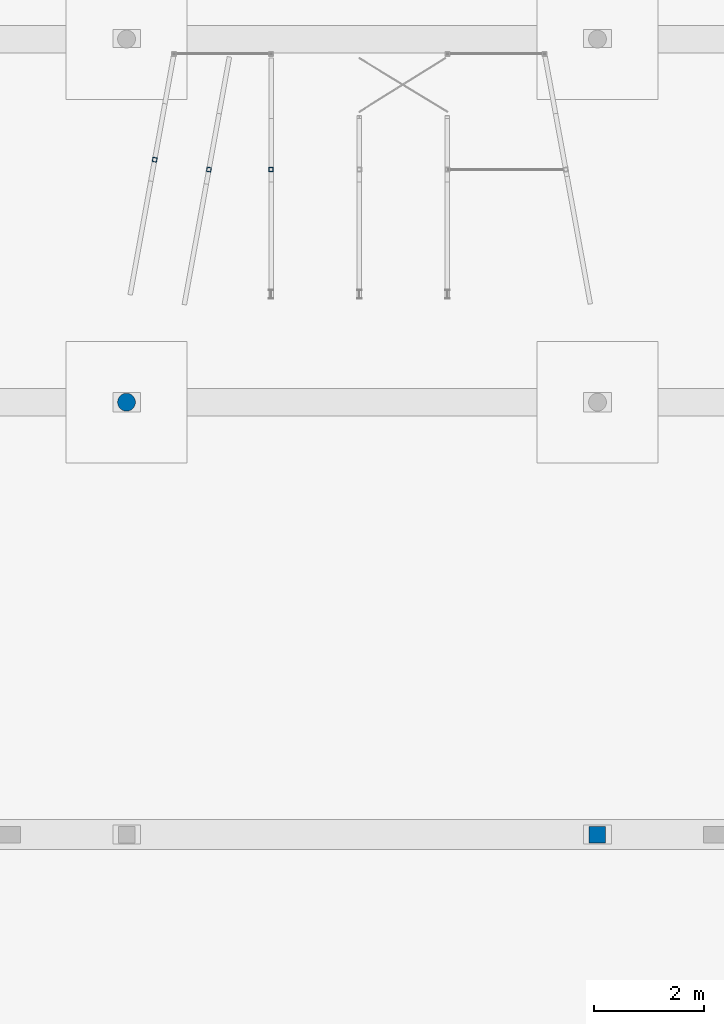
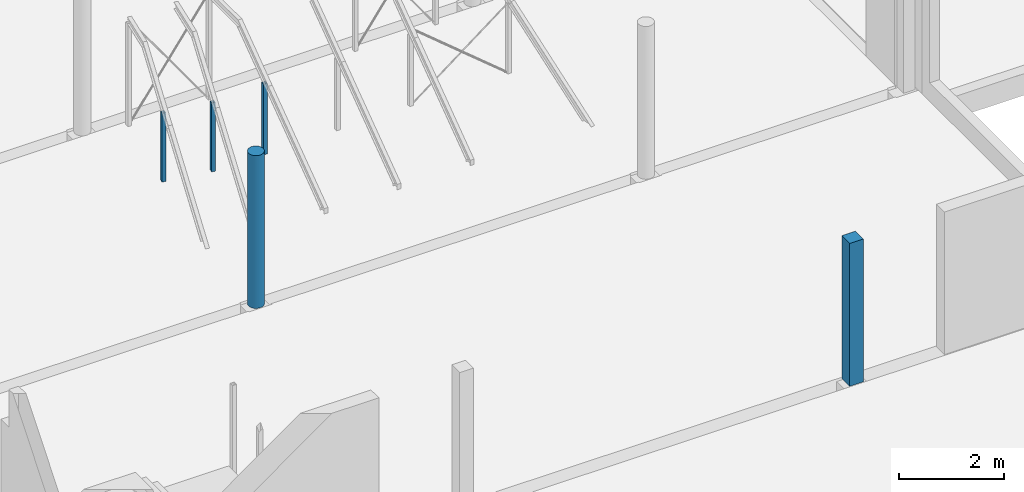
# One storey, part 4 of 17: 5 columns.
"""IFC2X3 building model written with IfcOpenShell, lengths in millimetres."""

from ifc_helpers import new_model, entity, si_unit, converted_unit, derived_unit, direction, frame, frame_2d, origin, place, context, subcontext, project, spatial, polyline, rectangle, circle, hollow_circle, outline, extrude, source, transform, mapped, material, material_list, type_object, type_shapes, element, save


model = new_model("IFC2X3")

# Units and contexts
model_context = context("Model", 3, precision=0.01, world=origin(), true_north=direction((6.123031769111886e-17, 1.0)))
body_context = subcontext(model_context, "Body", "Model", "MODEL_VIEW")
ifc_project = project(units=[si_unit("LENGTHUNIT", "METRE", prefix="MILLI"), si_unit("AREAUNIT", "SQUARE_METRE", prefix="MILLI"), si_unit("VOLUMEUNIT", "CUBIC_METRE"), converted_unit("PLANEANGLEUNIT", "DEGREE", entity("IfcPlaneAngleMeasure", 0.017453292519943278), si_unit("PLANEANGLEUNIT", "RADIAN"), dimensions=[0, 0, 0, 0, 0, 0, 0]), si_unit("MASSUNIT", "GRAM", prefix="KILO"), derived_unit("MASSDENSITYUNIT", [(si_unit("MASSUNIT", "GRAM", prefix="KILO"), 1), (si_unit("LENGTHUNIT", "METRE"), -3)]), derived_unit("IONCONCENTRATIONUNIT", [(si_unit("MASSUNIT", "GRAM", prefix="KILO"), 1), (si_unit("LENGTHUNIT", "METRE"), -3)]), derived_unit("MOMENTOFINERTIAUNIT", [(si_unit("LENGTHUNIT", "METRE"), 4)]), si_unit("TIMEUNIT", "SECOND"), si_unit("FREQUENCYUNIT", "HERTZ"), si_unit("THERMODYNAMICTEMPERATUREUNIT", "DEGREE_CELSIUS"), derived_unit("THERMALTRANSMITTANCEUNIT", [(si_unit("MASSUNIT", "GRAM", prefix="KILO"), 1), (si_unit("THERMODYNAMICTEMPERATUREUNIT", "KELVIN"), -1), (si_unit("TIMEUNIT", "SECOND"), -3)]), derived_unit("THERMALCONDUCTANCEUNIT", [(si_unit("MASSUNIT", "GRAM", prefix="KILO"), 1), (si_unit("THERMODYNAMICTEMPERATUREUNIT", "KELVIN"), -1), (si_unit("TIMEUNIT", "SECOND"), -3), (si_unit("LENGTHUNIT", "METRE"), 1)]), derived_unit("VOLUMETRICFLOWRATEUNIT", [(si_unit("LENGTHUNIT", "METRE", prefix="DECI"), 3), (si_unit("TIMEUNIT", "SECOND"), -1)]), derived_unit("MASSFLOWRATEUNIT", [(si_unit("MASSUNIT", "GRAM", prefix="KILO"), 1), (si_unit("TIMEUNIT", "SECOND"), -1)]), derived_unit("ROTATIONALFREQUENCYUNIT", [(si_unit("TIMEUNIT", "SECOND"), -1)]), si_unit("ELECTRICCURRENTUNIT", "AMPERE"), si_unit("ELECTRICVOLTAGEUNIT", "VOLT"), si_unit("POWERUNIT", "WATT"), si_unit("FORCEUNIT", "NEWTON", prefix="KILO"), si_unit("ILLUMINANCEUNIT", "LUX"), si_unit("LUMINOUSFLUXUNIT", "LUMEN"), si_unit("LUMINOUSINTENSITYUNIT", "CANDELA"), si_unit("ENERGYUNIT", "JOULE"), derived_unit("USERDEFINED", [(si_unit("MASSUNIT", "GRAM", prefix="KILO"), -1), (si_unit("LENGTHUNIT", "METRE"), -2), (si_unit("TIMEUNIT", "SECOND"), 3), (si_unit("LUMINOUSFLUXUNIT", "LUMEN"), 1)]), derived_unit("USERDEFINED", [(si_unit("MASSUNIT", "GRAM", prefix="KILO"), 1), (si_unit("TIMEUNIT", "SECOND"), -3), (si_unit("LENGTHUNIT", "METRE"), 3), (si_unit("ELECTRICCURRENTUNIT", "AMPERE"), -2)]), derived_unit("SOUNDPOWERUNIT", [(si_unit("MASSUNIT", "GRAM", prefix="KILO"), 1), (si_unit("TIMEUNIT", "SECOND"), -3), (si_unit("LENGTHUNIT", "METRE"), 2)]), derived_unit("SOUNDPRESSUREUNIT", [(si_unit("MASSUNIT", "GRAM", prefix="KILO"), 1), (si_unit("LENGTHUNIT", "METRE"), -1), (si_unit("TIMEUNIT", "SECOND"), -2)]), derived_unit("LINEARVELOCITYUNIT", [(si_unit("LENGTHUNIT", "METRE"), 1), (si_unit("TIMEUNIT", "SECOND"), -1)]), si_unit("PRESSUREUNIT", "PASCAL"), derived_unit("USERDEFINED", [(si_unit("MASSUNIT", "GRAM", prefix="KILO"), 1), (si_unit("LENGTHUNIT", "METRE"), -2), (si_unit("TIMEUNIT", "SECOND"), -2)]), derived_unit("LINEARFORCEUNIT", [(si_unit("MASSUNIT", "GRAM", prefix="KILO"), 1), (si_unit("TIMEUNIT", "SECOND"), -2)]), derived_unit("PLANARFORCEUNIT", [(si_unit("MASSUNIT", "GRAM", prefix="KILO"), 1), (si_unit("LENGTHUNIT", "METRE"), -1), (si_unit("TIMEUNIT", "SECOND"), -2)]), derived_unit("SPECIFICHEATCAPACITYUNIT", [(si_unit("THERMODYNAMICTEMPERATUREUNIT", "KELVIN"), -1), (si_unit("LENGTHUNIT", "METRE"), 2), (si_unit("TIMEUNIT", "SECOND"), -2)]), derived_unit("HEATFLUXDENSITYUNIT", [(si_unit("MASSUNIT", "GRAM", prefix="KILO"), 1), (si_unit("TIMEUNIT", "SECOND"), -3)]), derived_unit("HEATINGVALUEUNIT", [(si_unit("LENGTHUNIT", "METRE"), 2), (si_unit("TIMEUNIT", "SECOND"), -2)]), derived_unit("VAPORPERMEABILITYUNIT", [(si_unit("LENGTHUNIT", "METRE"), -1), (si_unit("TIMEUNIT", "SECOND"), 1)]), derived_unit("DYNAMICVISCOSITYUNIT", [(si_unit("MASSUNIT", "GRAM", prefix="KILO"), 1), (si_unit("TIMEUNIT", "SECOND"), -1), (si_unit("LENGTHUNIT", "METRE"), -1)]), derived_unit("THERMALEXPANSIONCOEFFICIENTUNIT", [(si_unit("THERMODYNAMICTEMPERATUREUNIT", "KELVIN"), -1)]), derived_unit("MODULUSOFELASTICITYUNIT", [(si_unit("MASSUNIT", "GRAM", prefix="KILO"), 1), (si_unit("LENGTHUNIT", "METRE"), -1), (si_unit("TIMEUNIT", "SECOND"), -2)]), derived_unit("ISOTHERMALMOISTURECAPACITYUNIT", [(si_unit("MASSUNIT", "GRAM", prefix="KILO"), -1), (si_unit("LENGTHUNIT", "METRE"), 3)]), derived_unit("MOISTUREDIFFUSIVITYUNIT", [(si_unit("TIMEUNIT", "SECOND"), -1), (si_unit("LENGTHUNIT", "METRE"), 2)]), derived_unit("MASSPERLENGTHUNIT", [(si_unit("MASSUNIT", "GRAM", prefix="KILO"), 1), (si_unit("LENGTHUNIT", "METRE"), -1)]), derived_unit("THERMALRESISTANCEUNIT", [(si_unit("MASSUNIT", "GRAM", prefix="KILO"), -1), (si_unit("TIMEUNIT", "SECOND"), 3), (si_unit("THERMODYNAMICTEMPERATUREUNIT", "KELVIN"), 1)]), derived_unit("ACCELERATIONUNIT", [(si_unit("LENGTHUNIT", "METRE"), 1), (si_unit("TIMEUNIT", "SECOND"), -2)]), derived_unit("ANGULARVELOCITYUNIT", [(si_unit("TIMEUNIT", "SECOND"), -1), (si_unit("PLANEANGLEUNIT", "RADIAN"), 1)]), derived_unit("LINEARSTIFFNESSUNIT", [(si_unit("MASSUNIT", "GRAM", prefix="KILO"), 1), (si_unit("TIMEUNIT", "SECOND"), -2)]), derived_unit("WARPINGCONSTANTUNIT", [(si_unit("LENGTHUNIT", "METRE"), 6)]), derived_unit("LINEARMOMENTUNIT", [(si_unit("MASSUNIT", "GRAM", prefix="KILO"), 1), (si_unit("LENGTHUNIT", "METRE"), 1), (si_unit("TIMEUNIT", "SECOND"), -2)]), derived_unit("TORQUEUNIT", [(si_unit("MASSUNIT", "GRAM", prefix="KILO"), 1), (si_unit("LENGTHUNIT", "METRE"), 2), (si_unit("TIMEUNIT", "SECOND"), -2)])], contexts=[model_context])

# Site, building, storey
site_placement = place(None, origin())
site = spatial("IfcSite", under=ifc_project, at=site_placement, Name="Default", CompositionType="ELEMENT")
building_placement = place(site_placement, origin())
building = spatial("IfcBuilding", under=site, at=building_placement, CompositionType="ELEMENT")
storey_placement = place(building_placement, frame((0.0, 0.0, -70.0)))
storey = spatial("IfcBuildingStorey", under=building, at=storey_placement, Name="F1 begg (bk ruwe vloer)", CompositionType="ELEMENT", Elevation=-69.99999999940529)

# Columns
ifc_material_1 = material(Name="Concrete - Cast-in-Place - C30/37")
ifc_material_2 = material(Name="Metal - Steel - S235 JRG2 (standaard)")
ifc_material_list_1 = material_list([ifc_material_1, ifc_material_2])
column_type_1 = type_object("IfcColumnType", Name="btk_staal - Buis + beton:Ø323.9x10", PredefinedType="COLUMN", material=ifc_material_list_1)
shared_shape_1 = source(origin(), body_context, "Body", "SweptSolid", [
    extrude(circle(Radius=151.95000000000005, at=frame_2d((-8.977166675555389e-16, -6.689666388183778e-13), x_axis=(1.0, 0.0))), frame((0.0, 0.0, -70.0)), (0.0, 0.0, 1.0), 3539.9999999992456),
    extrude(hollow_circle(Radius=161.94999999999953, WallThickness=9.999999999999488, at=frame_2d((-4.05403947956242e-15, 6.156028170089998e-13), x_axis=(1.0, 0.0))), frame((0.0, 0.0, -70.0)), (0.0, 0.0, 1.0), 3539.9999999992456),
])
type_shapes(column_type_1, [shared_shape_1])
column_1_placement = place(storey_placement, frame((14699.863108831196, 25344.605013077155, 70.0)))
element("IfcColumn", 1, at=column_1_placement, inside=storey, type_object=column_type_1, material=ifc_material_list_1, Name="btk_staal - Buis + beton:Ø323.9x10", ObjectType="btk_staal - Buis + beton:Ø323.9x10", context=body_context, shape_type="MappedRepresentation", body=[
    mapped(shared_shape_1, transform((0.0, 0.0, 0.0), scale=1.0)),
])
ifc_material_3 = material(Name="Metal - Steel - S275 J0H (standaard-kokers/buizen)")
ifc_material_list_2 = material_list([ifc_material_1, ifc_material_3])
column_type_2 = type_object("IfcColumnType", Name="btk_staal - Koker + beton:K300x300x8.0", PredefinedType="COLUMN", material=ifc_material_list_2)
shared_shape_2 = source(origin(), body_context, "Body", "SweptSolid", [
    extrude(rectangle(XDim=284.0000000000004, YDim=284.0000000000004, at=frame_2d((-2.1600499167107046e-12, -2.1600499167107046e-12), x_axis=(1.0, 0.0))), frame((23249.986607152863, 17494.605013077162, -80.0), z_axis=(0.0, 0.0, 1.0), x_axis=(-1.0, 0.0, 0.0)), (0.0, 0.0, 1.0), 3312.4999999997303),
    extrude(outline(polyline([(-150.0, -150.0), (150.0, -150.0), (150.0, 150.0), (-150.0, 150.0), (-150.0, -150.0)]), holes=[polyline([(-142.0, -142.0), (-142.0, 142.0), (142.0, 142.0), (142.0, -142.0), (-142.0, -142.0)])]), frame((23249.986607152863, 17494.605013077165, -80.0), z_axis=(0.0, 0.0, 1.0), x_axis=(-1.0, 0.0, 0.0)), (0.0, 0.0, 1.0), 3312.4999999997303),
])
type_shapes(column_type_2, [shared_shape_2])
column_2_placement = place(storey_placement, frame((0.0, 0.0, 70.0)))
element("IfcColumn", 2, at=column_2_placement, inside=storey, type_object=column_type_2, material=ifc_material_list_2, Name="btk_staal - Koker + beton:K300x300x8.0", ObjectType="btk_staal - Koker + beton:K300x300x8.0", context=body_context, shape_type="MappedRepresentation", body=[
    mapped(shared_shape_2, transform((0.0, 0.0, 0.0), scale=1.0)),
])
column_type_3 = type_object("IfcColumnType", Name="btk_staal - Koker:K80x80x6", PredefinedType="COLUMN", material=ifc_material_3)
shared_shape_3 = source(origin(), body_context, "Body", "SweptSolid", [
    extrude(outline(polyline([(-40.0, -40.0), (40.0, -40.0), (40.0, 40.0), (-40.0, 40.0), (-40.0, -40.0)]), holes=[polyline([(-34.0, -34.0), (-34.0, 34.0), (34.0, 34.0), (34.0, -34.0), (-34.0, -34.0)])]), frame((17324.69148107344, 29568.56106542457, -70.0), z_axis=(0.0, 0.0, 1.0), x_axis=(-1.0, 0.0, 0.0)), (0.0, 0.0, 1.0), 1637.681063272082),
])
type_shapes(column_type_3, [shared_shape_3])
column_3_placement = place(storey_placement, frame((0.0, 0.0, 70.0)))
element("IfcColumn", 3, at=column_3_placement, inside=storey, type_object=column_type_3, material=ifc_material_3, Name="btk_staal - Koker:K80x80x6", ObjectType="btk_staal - Koker:K80x80x6", context=body_context, shape_type="MappedRepresentation", body=[
    mapped(shared_shape_3, transform((0.0, 0.0, 0.0), scale=1.0)),
])
column_type_4 = type_object("IfcColumnType", Name="btk_staal - Koker:K80x80x6", PredefinedType="COLUMN", material=ifc_material_3)
shared_shape_4 = source(origin(), body_context, "Body", "SweptSolid", [
    extrude(outline(polyline([(-40.0, -40.0), (40.0, -40.0), (40.0, 40.0), (-40.0, 40.0), (-40.0, -40.0)]), holes=[polyline([(-34.0, -34.0), (-34.0, 34.0), (34.0, 34.0), (34.0, -34.0), (-34.0, -34.0)])]), frame((16195.074055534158, 29568.56106542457, -70.0), z_axis=(0.0, 0.0, 1.0), x_axis=(-0.9838619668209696, 0.17892912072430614, 0.0)), (0.0, 0.0, 1.0), 1594.7462033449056),
])
type_shapes(column_type_4, [shared_shape_4])
column_4_placement = place(storey_placement, frame((0.0, 0.0, 70.0)))
element("IfcColumn", 4, at=column_4_placement, inside=storey, type_object=column_type_4, material=ifc_material_3, Name="btk_staal - Koker:K80x80x6", ObjectType="btk_staal - Koker:K80x80x6", context=body_context, shape_type="MappedRepresentation", body=[
    mapped(shared_shape_4, transform((0.0, 0.0, 0.0), scale=1.0)),
])
column_type_5 = type_object("IfcColumnType", Name="btk_staal - Koker:K80x80x6", PredefinedType="COLUMN", material=ifc_material_3)
shared_shape_5 = source(origin(), body_context, "Body", "SweptSolid", [
    extrude(outline(polyline([(-40.0, -40.0), (40.0, -40.0), (40.0, 40.0), (-40.0, 40.0), (-40.0, -40.0)]), holes=[polyline([(-34.0, -34.0), (-34.0, 34.0), (34.0, 34.0), (34.0, -34.0), (-34.0, -34.0)])]), frame((15211.160818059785, 29747.499510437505, -70.0), z_axis=(0.0, 0.0, 1.0), x_axis=(-0.9838619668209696, 0.17892912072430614, 0.0)), (0.0, 0.0, 1.0), 1594.7462033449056),
])
type_shapes(column_type_5, [shared_shape_5])
column_5_placement = place(storey_placement, frame((0.0, 0.0, 70.0)))
element("IfcColumn", 5, at=column_5_placement, inside=storey, type_object=column_type_5, material=ifc_material_3, Name="btk_staal - Koker:K80x80x6", ObjectType="btk_staal - Koker:K80x80x6", context=body_context, shape_type="MappedRepresentation", body=[
    mapped(shared_shape_5, transform((0.0, 0.0, 0.0), scale=1.0)),
])

save(model, "model.ifc")
